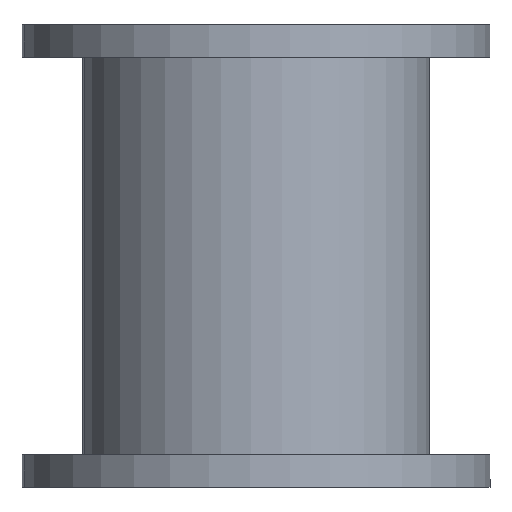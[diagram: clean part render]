
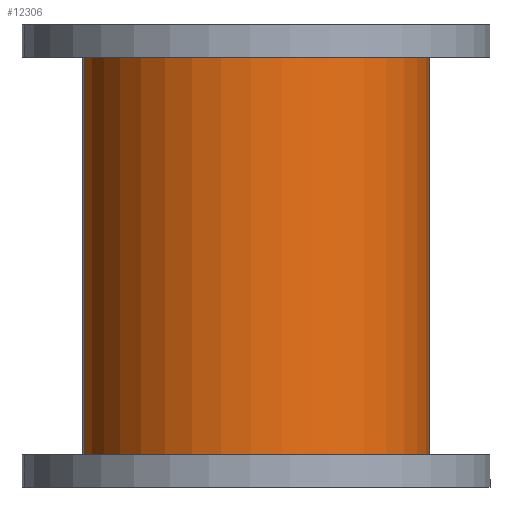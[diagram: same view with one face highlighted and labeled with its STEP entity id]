
A CAD part, front view. The second image highlights one B-rep face of the part: STEP entity #12306.
In plain terms, the highlighted cylindrical face has radius 150 mm (diameter 300 mm), a partial arc.
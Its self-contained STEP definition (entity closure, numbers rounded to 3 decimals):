
#765 = CIRCLE ( 'NONE', #12649, 150. ) ;
#811 = ORIENTED_EDGE ( 'NONE', *, *, #2516, .F. ) ;
#977 = DIRECTION ( 'NONE',  ( 0., 0., 1. ) ) ;
#1013 = VERTEX_POINT ( 'NONE', #9259 ) ;
#1143 = DIRECTION ( 'NONE',  ( 0., 0., -1. ) ) ;
#1176 = EDGE_LOOP ( 'NONE', ( #8647, #811, #10831, #10631 ) ) ;
#1216 = LINE ( 'NONE', #11420, #11277 ) ;
#1675 = CIRCLE ( 'NONE', #12247, 150. ) ;
#1955 = DIRECTION ( 'NONE',  ( -1., 0., 0. ) ) ;
#2516 = EDGE_CURVE ( 'NONE', #6810, #6981, #765, .T. ) ;
#3337 = CARTESIAN_POINT ( 'NONE',  ( -150., 0., 172. ) ) ;
#3963 = VECTOR ( 'NONE', #4907, 1000. ) ;
#4269 = EDGE_CURVE ( 'NONE', #6810, #1013, #1216, .T. ) ;
#4907 = DIRECTION ( 'NONE',  ( 0., 0., -1. ) ) ;
#4909 = CARTESIAN_POINT ( 'NONE',  ( 0., 0., 172. ) ) ;
#4927 = CYLINDRICAL_SURFACE ( 'NONE', #9779, 150. ) ;
#5582 = CARTESIAN_POINT ( 'NONE',  ( 150., 0., 172. ) ) ;
#6073 = CARTESIAN_POINT ( 'NONE',  ( 150., 0., -172. ) ) ;
#6178 = CARTESIAN_POINT ( 'NONE',  ( 0., 0., -172. ) ) ;
#6701 = EDGE_CURVE ( 'NONE', #6981, #11363, #13112, .T. ) ;
#6810 = VERTEX_POINT ( 'NONE', #3337 ) ;
#6981 = VERTEX_POINT ( 'NONE', #5582 ) ;
#7158 = DIRECTION ( 'NONE',  ( 0., 0., -1. ) ) ;
#8647 = ORIENTED_EDGE ( 'NONE', *, *, #6701, .F. ) ;
#8918 = CARTESIAN_POINT ( 'NONE',  ( 0., 0., 200. ) ) ;
#9034 = DIRECTION ( 'NONE',  ( 1., 0., 0. ) ) ;
#9259 = CARTESIAN_POINT ( 'NONE',  ( -150., 0., -172. ) ) ;
#9286 = DIRECTION ( 'NONE',  ( 0., 0., -1. ) ) ;
#9779 = AXIS2_PLACEMENT_3D ( 'NONE', #8918, #7158, #1955 ) ;
#9989 = EDGE_CURVE ( 'NONE', #11363, #1013, #1675, .T. ) ;
#10631 = ORIENTED_EDGE ( 'NONE', *, *, #9989, .F. ) ;
#10831 = ORIENTED_EDGE ( 'NONE', *, *, #4269, .T. ) ;
#11183 = CARTESIAN_POINT ( 'NONE',  ( 150., 0., 200. ) ) ;
#11277 = VECTOR ( 'NONE', #1143, 1000. ) ;
#11363 = VERTEX_POINT ( 'NONE', #6073 ) ;
#11420 = CARTESIAN_POINT ( 'NONE',  ( -150., 0., 200. ) ) ;
#12101 = FACE_OUTER_BOUND ( 'NONE', #1176, .T. ) ;
#12247 = AXIS2_PLACEMENT_3D ( 'NONE', #6178, #9286, #12807 ) ;
#12306 = ADVANCED_FACE ( 'NONE', ( #12101 ), #4927, .T. ) ;
#12649 = AXIS2_PLACEMENT_3D ( 'NONE', #4909, #977, #9034 ) ;
#12807 = DIRECTION ( 'NONE',  ( -1., 0., 0. ) ) ;
#13112 = LINE ( 'NONE', #11183, #3963 ) ;
